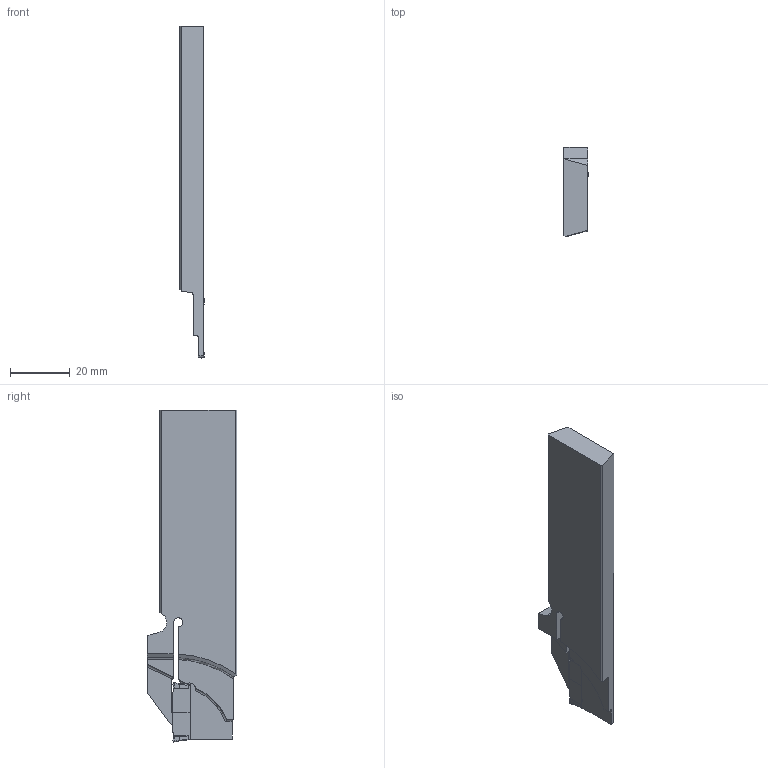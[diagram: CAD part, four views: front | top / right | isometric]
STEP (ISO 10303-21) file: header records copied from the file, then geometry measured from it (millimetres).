
FILE_DESCRIPTION(('CATIA V5 STEP'),'2;1');
FILE_NAME('I:\isr\design\admin8\users\yousef_k\2399644-L.stp','2013-02-20T07:44:52+00:00',('none'),('none'),'CATIA Version 5 Release 21 SP 3 (IN-10)','CATIA V5 STEP AP214','none');
FILE_SCHEMA(('AUTOMOTIVE_DESIGN { 1 0 10303 214 1 1 1 1 }'));
Length unit declared in the file: millimetre
Products named in the file (1): 61140391_0  DGFHL 26B-2TR-D36R
Bounding box: 8.14 x 29.99 x 111 mm (x, y, z)
Volume: 17496 mm3; surface area: 7593.2 mm2
Topology: 2 solids, 2 shells, 127 faces, 362 edges, 240 vertices
Faces by surface type: plane 58, bspline 38, cylinder 22, extrusion 4, torus 3, cone 2
Entity records: 8514 total; most frequent: CARTESIAN_POINT 5707, ORIENTED_EDGE 704, EDGE_CURVE 352, DIRECTION 332, VERTEX_POINT 229, B_SPLINE_CURVE_WITH_KNOTS 176, VECTOR 156, LINE 152
